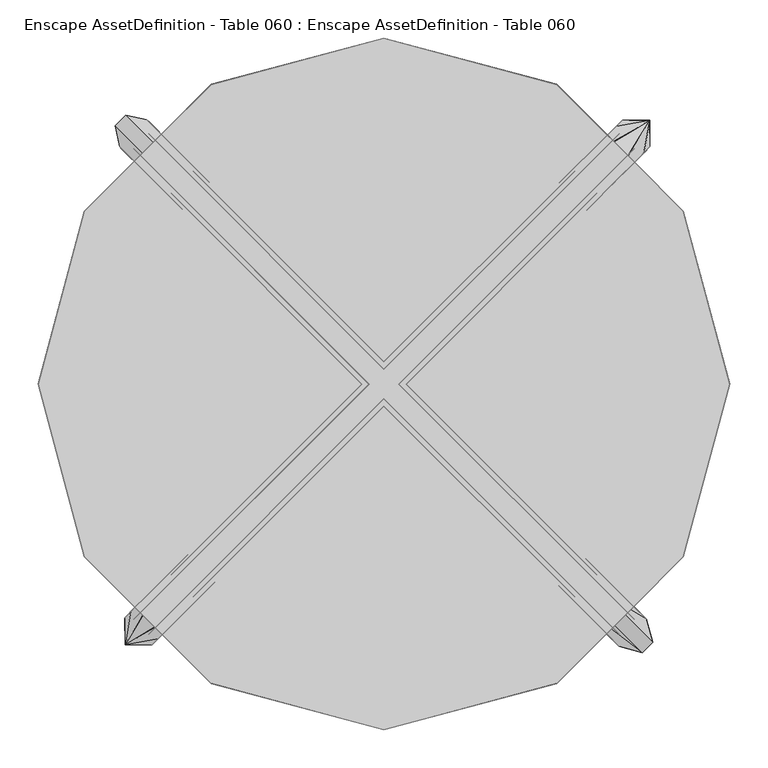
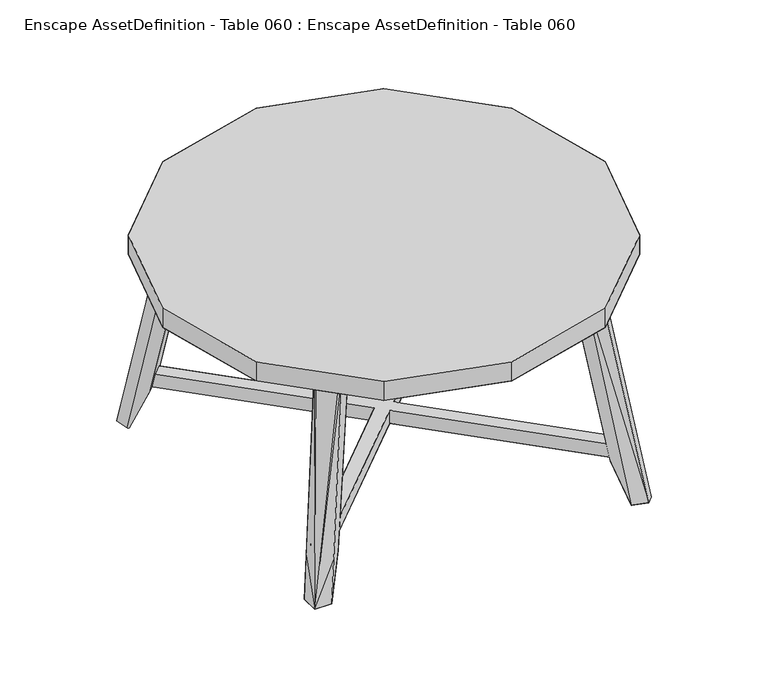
"""IFC4 building model written with IfcOpenShell, lengths in millimetres: geographic element geometry, Enscape AssetDefinition - Table 060 : Enscape AssetDefinition - Table 060."""

from ifc_helpers import new_model, si_unit, origin, place, context, project, spatial, triangles, source, transform, mapped, element, save


def enscape_assetdefinition_table_060_enscape_assetdefinition_db9969bd(model_context):
    return source(origin(), model_context, "Body", "Tessellation", [
        triangles([(0.0, 0.0, 485.1760903), (392.5848307, 226.6583489, 485.1760903), (226.6583489, 392.5848307, 485.1760903), (-392.5848307, 226.6583489, 485.1760903), (-392.5848307, -226.6583489, 485.1760903), (0.0, -453.3176788, 485.1760903), (226.6583489, -392.5848307, 485.1760903), (-226.6583489, -392.5848307, 485.1760903), (226.6583489, -392.5848307, 443.8103013), (392.5848307, -226.6583489, 485.1760903), (453.3176788, 0.0, 485.1760903), (453.3176788, 0.0, 443.8103013), (392.5848307, 226.6583489, 443.8103013), (392.5848307, -226.6583489, 443.8103013), (226.6583489, 392.5848307, 443.8103013), (0.0, -453.3176788, 443.8103013), (-226.6583489, -392.5848307, 443.8103013), (-392.5848307, -226.6583489, 443.8103013), (-453.3176788, 0.0, 485.1760903), (-392.5848307, 226.6583489, 443.8103013), (-453.3176788, 0.0, 443.8103013), (-226.6583489, 392.5848307, 443.8103013), (-226.6583489, 392.5848307, 485.1760903), (0.0, 453.3176788, 485.1760903), (0.0, 453.3176788, 443.8103013), (308.297788, 327.9191194, 116.7890832), (19.615327, 0.0, 116.7890832), (327.9191194, 308.297788, 116.7890832), (19.6213359, 0.0, 89.0397323), (327.9191194, 308.297788, 89.0397323), (308.297788, 327.9191194, 89.0397323), (0.0, 19.6213359, 89.0397323), (-308.297788, 327.9191194, 89.0397323), (-327.9191194, 308.297788, 89.0397323), (-19.6213359, 0.0, 89.0397323), (-308.297788, 327.9191194, 116.7890832), (-327.9191194, 308.297788, 116.7890832), (0.0, 19.615327, 116.7890832), (0.0, -19.615327, 116.7890832), (-308.297788, -327.9191194, 116.7890832), (-19.615327, 0.0, 116.7890832), (-327.9191194, -308.297788, 116.7890832), (327.9191194, -308.297788, 116.7890832), (308.297788, -327.9191194, 116.7890832), (308.297788, -327.9191194, 89.0397323), (0.0, -19.6213359, 89.0397323), (327.9191194, -308.297788, 89.0397323), (-327.9191194, -308.297788, 89.0397323), (-308.297788, -327.9191194, 89.0397323), (-28.8934717, 0.0, 403.2893735), (0.0, 28.8934717, 403.2893735), (-249.9452814, -278.8377402, 444.1506512), (249.9452814, -278.8377402, 444.1506512), (249.9452814, -278.8377402, 403.2893735), (0.0, -28.8934717, 403.2893735), (-278.8377402, -249.9452814, 403.2893735), (-249.9452814, -278.8377402, 403.2893735), (-278.8377402, -249.9452814, 444.1506512), (-28.8934717, 0.0, 444.1506512), (-249.9452814, 278.8377402, 444.1506512), (-278.8377402, 249.9452814, 444.1506512), (0.0, -28.8934717, 444.1506512), (-249.9452814, 278.8377402, 403.2893735), (-278.8377402, 249.9452814, 403.2893735), (249.9452814, 278.8377402, 403.2893735), (28.8934717, 0.0, 444.1506512), (0.0, 28.8934717, 444.1506512), (278.8377402, 249.9452814, 403.2893735), (278.8377402, 249.9452814, 444.1506512), (249.9452814, 278.8377402, 444.1506512), (278.8377402, -249.9452814, 403.2893735), (28.8934717, 0.0, 403.2893735), (278.8377402, -249.9452814, 444.1506512), (228.9896383, -264.6557752, 451.1635589), (246.4808671, -282.1470222, 451.1635589), (308.0205156, -343.6866526, 0.0), (280.6575238, -316.3237152, 89.1288257), (316.3597232, -280.6205166, 89.1288257), (343.7226969, -307.9834903, 0.0), (338.713773, -352.3392131, 0.0), (352.3762384, -338.6767113, 0.0), (274.3262969, -287.951737, 451.1635589), (287.9887805, -274.2892715, 451.1635589), (282.1840658, -246.4448592, 451.1635589), (264.6918377, -228.953594, 451.1635589), (-228.953594, 264.6918377, 451.1635589), (-316.3237152, 280.6575238, 89.1288257), (-264.6557752, 228.9896383, 451.1635589), (-280.6205166, 316.3597232, 89.1288257), (-307.9834903, 343.7226969, 0.0), (-329.8760493, 313.880296, 12.9497603), (-313.8432343, 329.9120936, 12.9497603), (-336.4795343, 315.2266165, 0.0), (-339.328343, 318.0754251, 0.0), (-315.1905722, 336.516596, 0.0), (-318.0383635, 339.3644237, 0.0), (-343.6866526, 308.0205156, 0.0), (-352.3392131, 338.713773, 0.0), (-310.8322989, 346.5715055, 0.0), (-287.951737, 274.3262969, 451.1635589), (-274.2892715, 287.9887805, 451.1635589), (-346.5344439, 310.8683069, 0.0), (-246.4448592, 282.1840658, 451.1635589), (-282.1470222, 246.4808671, 451.1635589), (-338.6767113, 352.3762384, 0.0), (267.7978618, 297.2519142, 451.1635589), (338.7397888, 329.9611459, 88.0217348), (332.5827155, 336.136205, 87.9626723), (263.6708063, 297.2108738, 451.1635589), (230.0526911, 263.5927224, 451.1635589), (299.4150453, 265.6357663, 451.1635589), (299.3739867, 261.5086744, 451.1635589), (317.6139708, 279.7486403, 87.790508), (265.7548724, 227.8905593, 451.1635589), (340.2392612, 302.3749663, 87.790508), (304.383928, 337.9239593, 87.790508), (281.9117895, 315.4508397, 87.790508), (348.2721648, 345.5534718, 0.0), (312.3667983, 345.9058485, 0.0), (348.6245416, 310.7602467, 0.0), (-323.7720251, -332.550668, 88.0217348), (-329.9471206, -326.3926137, 87.9626723), (-339.3644237, -342.0830804, 0.0), (-296.1848645, -334.0501768, 87.790508), (-255.31959, -293.1838849, 451.1635589), (-259.4456463, -293.2259427, 451.1635589), (-291.0628298, -261.6087773, 451.1635589), (-291.0217712, -257.4816855, 451.1635589), (-339.7167277, -306.1766965, 0.0), (-304.5701085, -342.4354208, 0.0), (-257.4036379, -223.8635885, 451.1635589), (-331.7348748, -298.1948254, 87.790508), (-273.559574, -311.4248863, 87.790508), (-309.2617553, -275.7216695, 87.790508), (-221.7004393, -259.5657698, 451.1635589)], [[134, 131, 135], [134, 135, 133], [134, 133, 130], [134, 130, 129], [129, 132, 134], [132, 131, 134], [132, 128, 131], [125, 131, 128], [125, 135, 131], [133, 135, 125], [133, 125, 124], [130, 133, 124], [123, 129, 130], [123, 132, 129], [123, 130, 124], [122, 128, 132], [123, 122, 132], [122, 127, 128], [125, 128, 127], [127, 126, 125], [121, 125, 126], [121, 124, 125], [123, 124, 121], [123, 121, 122], [121, 127, 122], [121, 126, 127], [118, 120, 119], [117, 119, 120], [118, 119, 116], [119, 117, 116], [116, 110, 109], [116, 117, 110], [117, 114, 110], [117, 120, 113], [117, 113, 114], [118, 115, 120], [120, 115, 113], [110, 114, 112], [113, 112, 114], [113, 115, 112], [110, 112, 111], [106, 109, 110], [110, 111, 106], [108, 109, 106], [108, 116, 109], [118, 116, 108], [107, 112, 115], [107, 111, 112], [118, 107, 115], [118, 108, 107], [107, 106, 111], [107, 108, 106], [101, 99, 105], [101, 103, 99], [101, 100, 104], [104, 103, 101], [97, 87, 102], [87, 104, 102], [98, 101, 105], [98, 100, 101], [98, 105, 99], [98, 104, 100], [98, 102, 104], [98, 99, 96], [97, 102, 94], [94, 102, 98], [98, 96, 94], [97, 94, 93], [87, 97, 93], [87, 93, 91], [96, 95, 92], [92, 94, 96], [92, 93, 94], [92, 91, 93], [90, 92, 95], [96, 90, 95], [96, 99, 90], [90, 89, 92], [89, 91, 92], [89, 87, 91], [99, 89, 90], [99, 86, 89], [99, 103, 86], [104, 86, 103], [87, 88, 104], [89, 88, 87], [89, 86, 88], [104, 88, 86], [79, 85, 84], [83, 79, 84], [83, 81, 79], [83, 84, 85], [85, 82, 83], [80, 83, 82], [80, 81, 83], [76, 81, 80], [76, 79, 81], [76, 78, 79], [79, 78, 85], [76, 77, 78], [77, 76, 75], [80, 75, 76], [80, 82, 75], [85, 75, 82], [77, 75, 74], [78, 74, 85], [78, 77, 74], [85, 74, 75], [73, 62, 53], [73, 66, 62], [71, 66, 73], [71, 72, 66], [54, 72, 71], [66, 69, 70], [69, 66, 72], [69, 72, 68], [72, 65, 68], [66, 70, 67], [65, 67, 70], [62, 66, 67], [50, 61, 64], [51, 50, 64], [65, 51, 67], [72, 51, 65], [51, 64, 63], [67, 51, 63], [67, 63, 60], [62, 67, 59], [50, 59, 61], [59, 60, 61], [59, 67, 60], [62, 59, 58], [58, 50, 56], [58, 59, 50], [62, 58, 52], [56, 55, 57], [56, 50, 55], [54, 55, 72], [53, 55, 54], [53, 62, 55], [55, 52, 57], [55, 62, 52], [55, 51, 72], [55, 50, 51], [39, 40, 49], [42, 35, 48], [39, 49, 46], [48, 46, 49], [48, 35, 46], [35, 29, 46], [43, 47, 29], [47, 46, 29], [39, 46, 45], [47, 45, 46], [39, 45, 44], [43, 29, 27], [44, 27, 39], [44, 43, 27], [39, 27, 38], [42, 41, 35], [40, 41, 42], [40, 39, 41], [39, 38, 41], [38, 33, 36], [36, 41, 38], [37, 35, 41], [36, 37, 41], [37, 34, 35], [38, 32, 33], [34, 32, 35], [34, 33, 32], [35, 32, 29], [38, 31, 32], [30, 32, 31], [30, 29, 32], [28, 29, 30], [28, 27, 29], [38, 26, 31], [26, 27, 28], [26, 38, 27], [2, 13, 15], [2, 15, 3], [3, 15, 25], [3, 25, 24], [22, 25, 15], [24, 25, 22], [24, 22, 23], [15, 20, 22], [23, 22, 20], [23, 20, 4], [15, 21, 20], [4, 20, 21], [4, 21, 19], [15, 18, 21], [19, 21, 18], [19, 18, 5], [15, 17, 18], [5, 18, 17], [15, 16, 17], [15, 9, 16], [15, 14, 9], [15, 12, 14], [15, 13, 12], [11, 13, 2], [11, 12, 13], [10, 12, 11], [10, 14, 12], [7, 14, 10], [7, 9, 14], [6, 9, 7], [6, 16, 9], [8, 16, 6], [8, 17, 16], [5, 17, 8], [1, 10, 11], [1, 7, 10], [1, 6, 7], [1, 8, 6], [1, 5, 8], [1, 19, 5], [1, 4, 19], [1, 23, 4], [1, 24, 23], [1, 3, 24], [1, 2, 3], [1, 11, 2]], closed=False),
    ])


if __name__ == "__main__":
    model = new_model("IFC4")
    model_context = context("Model", 3, world=origin())
    ifc_project = project(units=[si_unit("LENGTHUNIT", "METRE", prefix="MILLI")], contexts=[model_context])
    site = spatial("IfcSite", under=ifc_project)
    building = spatial("IfcBuilding", under=site)
    placement = place(None, origin())
    enscape_assetdefinition_table_060_enscape_assetdefinition_shape = enscape_assetdefinition_table_060_enscape_assetdefinition_db9969bd(model_context)
    element("IfcGeographicElement", 1, ObjectType="Enscape AssetDefinition - Table 060 : Enscape AssetDefinition - Table 060", at=placement, inside=building, context=model_context, shape_type="MappedRepresentation", body=[
        mapped(enscape_assetdefinition_table_060_enscape_assetdefinition_shape, transform((0.0, 0.0, 0.0), x_axis=(1.0, 0.0, 0.0), y_axis=(0.0, 1.0, 0.0), z_axis=(0.0, 0.0, 1.0))),
    ])
    save(model, "model.ifc")
